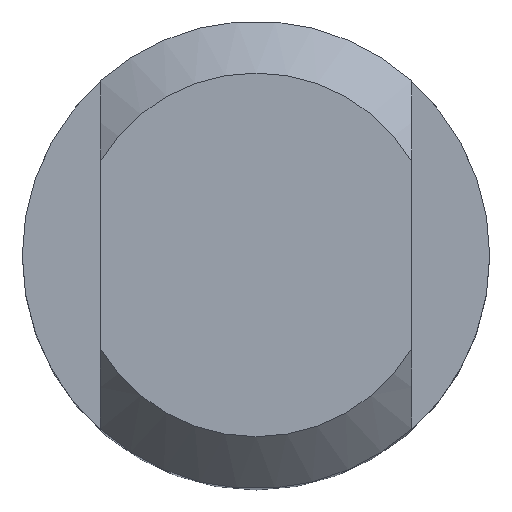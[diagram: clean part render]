
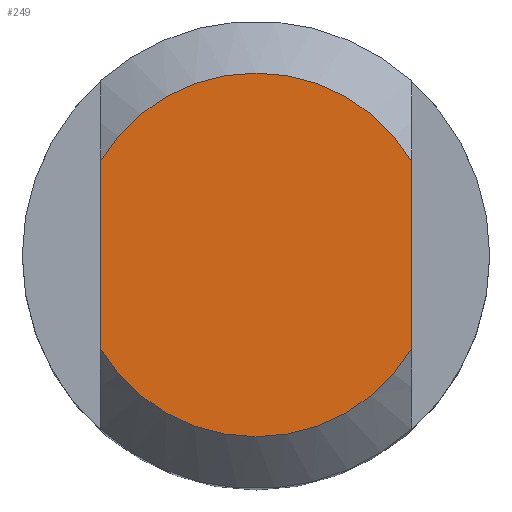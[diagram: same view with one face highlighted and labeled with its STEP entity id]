
A CAD part, top view. The second image highlights one B-rep face of the part: STEP entity #249.
In plain terms, the highlighted planar face has unit normal (0, 0, 1).
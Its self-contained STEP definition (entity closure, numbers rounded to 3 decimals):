
#8 = VECTOR ( 'NONE', #16, 1000. ) ;
#16 = DIRECTION ( 'NONE',  ( 0., -1., 0. ) ) ;
#19 = LINE ( 'NONE', #171, #8 ) ;
#33 = EDGE_LOOP ( 'NONE', ( #109, #571, #683, #222 ) ) ;
#57 = VECTOR ( 'NONE', #506, 1000. ) ;
#63 = DIRECTION ( 'NONE',  ( 1., 0., 0. ) ) ;
#73 = AXIS2_PLACEMENT_3D ( 'NONE', #780, #604, #595 ) ;
#79 = CARTESIAN_POINT ( 'NONE',  ( 15., 9.014, 256. ) ) ;
#97 = VERTEX_POINT ( 'NONE', #79 ) ;
#102 = VERTEX_POINT ( 'NONE', #634 ) ;
#109 = ORIENTED_EDGE ( 'NONE', *, *, #488, .F. ) ;
#124 = VERTEX_POINT ( 'NONE', #955 ) ;
#171 = CARTESIAN_POINT ( 'NONE',  ( -15., -8.385, 256. ) ) ;
#173 = VERTEX_POINT ( 'NONE', #437 ) ;
#186 = PLANE ( 'NONE',  #454 ) ;
#203 = DIRECTION ( 'NONE',  ( 0., 1., 0. ) ) ;
#222 = ORIENTED_EDGE ( 'NONE', *, *, #762, .T. ) ;
#249 = ADVANCED_FACE ( 'NONE', ( #768 ), #186, .F. ) ;
#258 = EDGE_CURVE ( 'NONE', #124, #97, #593, .T. ) ;
#271 = CARTESIAN_POINT ( 'NONE',  ( 15., 8.385, 256. ) ) ;
#335 = CARTESIAN_POINT ( 'NONE',  ( 0., 0., 256. ) ) ;
#437 = CARTESIAN_POINT ( 'NONE',  ( -15., -9.014, 256. ) ) ;
#454 = AXIS2_PLACEMENT_3D ( 'NONE', #335, #666, #203 ) ;
#488 = EDGE_CURVE ( 'NONE', #124, #173, #552, .T. ) ;
#493 = EDGE_CURVE ( 'NONE', #102, #97, #856, .T. ) ;
#506 = DIRECTION ( 'NONE',  ( 0., 1., 0. ) ) ;
#552 = CIRCLE ( 'NONE', #73, 17.5 ) ;
#571 = ORIENTED_EDGE ( 'NONE', *, *, #258, .T. ) ;
#585 = AXIS2_PLACEMENT_3D ( 'NONE', #846, #612, #63 ) ;
#593 = LINE ( 'NONE', #271, #57 ) ;
#595 = DIRECTION ( 'NONE',  ( 1., 0., 0. ) ) ;
#604 = DIRECTION ( 'NONE',  ( 0., 0., -1. ) ) ;
#612 = DIRECTION ( 'NONE',  ( 0., 0., -1. ) ) ;
#634 = CARTESIAN_POINT ( 'NONE',  ( -15., 9.014, 256. ) ) ;
#666 = DIRECTION ( 'NONE',  ( 0., 0., -1. ) ) ;
#683 = ORIENTED_EDGE ( 'NONE', *, *, #493, .F. ) ;
#762 = EDGE_CURVE ( 'NONE', #102, #173, #19, .T. ) ;
#768 = FACE_OUTER_BOUND ( 'NONE', #33, .T. ) ;
#780 = CARTESIAN_POINT ( 'NONE',  ( 0., 0., 256. ) ) ;
#846 = CARTESIAN_POINT ( 'NONE',  ( 0., 0., 256. ) ) ;
#856 = CIRCLE ( 'NONE', #585, 17.5 ) ;
#955 = CARTESIAN_POINT ( 'NONE',  ( 15., -9.014, 256. ) ) ;
